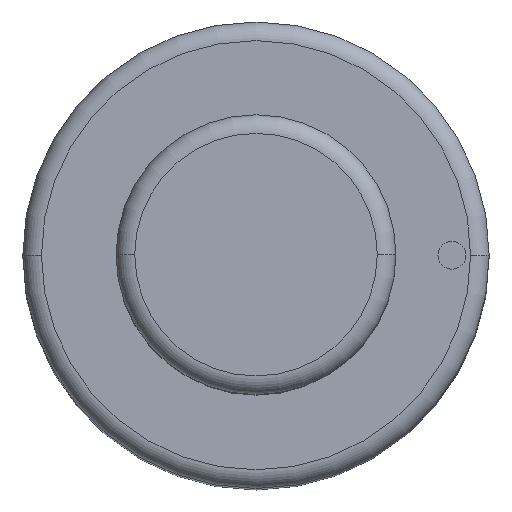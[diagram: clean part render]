
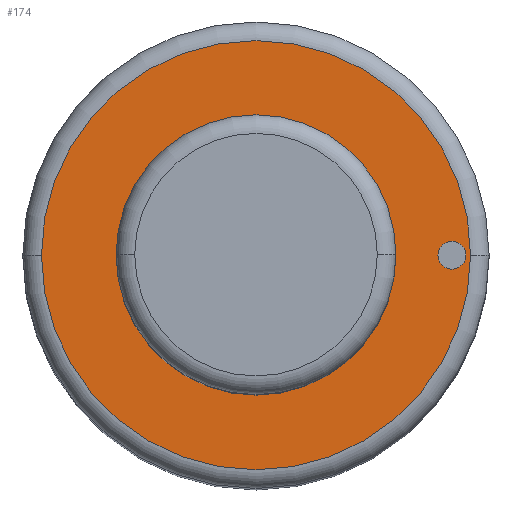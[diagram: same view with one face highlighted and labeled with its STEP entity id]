
A CAD part, top view. The second image highlights one B-rep face of the part: STEP entity #174.
In plain terms, the highlighted planar face has unit normal (0, 0, 1).
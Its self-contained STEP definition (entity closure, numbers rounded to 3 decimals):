
#99=FACE_BOUND('',#225,.T.);
#100=FACE_BOUND('',#226,.T.);
#101=FACE_BOUND('',#227,.T.);
#174=ADVANCED_FACE('',(#99,#100,#101),#180,.T.);
#180=PLANE('',#475);
#225=EDGE_LOOP('',(#307,#308));
#226=EDGE_LOOP('',(#309,#310));
#227=EDGE_LOOP('',(#311,#312));
#307=ORIENTED_EDGE('',*,*,#367,.F.);
#308=ORIENTED_EDGE('',*,*,#368,.F.);
#309=ORIENTED_EDGE('',*,*,#390,.F.);
#310=ORIENTED_EDGE('',*,*,#391,.F.);
#311=ORIENTED_EDGE('',*,*,#363,.T.);
#312=ORIENTED_EDGE('',*,*,#361,.T.);
#329=VERTEX_POINT('',#630);
#330=VERTEX_POINT('',#632);
#331=VERTEX_POINT('',#638);
#334=VERTEX_POINT('',#643);
#346=VERTEX_POINT('',#692);
#347=VERTEX_POINT('',#693);
#361=EDGE_CURVE('',#330,#329,#404,.T.);
#363=EDGE_CURVE('',#329,#330,#405,.T.);
#367=EDGE_CURVE('',#334,#331,#409,.T.);
#368=EDGE_CURVE('',#331,#334,#410,.T.);
#390=EDGE_CURVE('',#346,#347,#422,.T.);
#391=EDGE_CURVE('',#347,#346,#423,.T.);
#404=CIRCLE('',#440,7.5);
#405=CIRCLE('',#442,7.5);
#409=CIRCLE('',#447,11.5);
#410=CIRCLE('',#449,11.5);
#422=CIRCLE('',#473,0.75);
#423=CIRCLE('',#474,0.75);
#440=AXIS2_PLACEMENT_3D('',#631,#512,#513);
#442=AXIS2_PLACEMENT_3D('',#635,#517,#518);
#447=AXIS2_PLACEMENT_3D('',#644,#527,#528);
#449=AXIS2_PLACEMENT_3D('',#646,#531,#532);
#473=AXIS2_PLACEMENT_3D('',#691,#589,#590);
#474=AXIS2_PLACEMENT_3D('',#694,#591,#592);
#475=AXIS2_PLACEMENT_3D('',#695,#593,#594);
#512=DIRECTION('',(0.,0.,-1.));
#513=DIRECTION('',(0.,1.,0.));
#517=DIRECTION('',(0.,0.,-1.));
#518=DIRECTION('',(0.,-1.,0.));
#527=DIRECTION('',(0.,0.,-1.));
#528=DIRECTION('',(0.,1.,0.));
#531=DIRECTION('',(0.,0.,-1.));
#532=DIRECTION('',(0.,-1.,0.));
#589=DIRECTION('',(0.,0.,1.));
#590=DIRECTION('',(0.,1.,0.));
#591=DIRECTION('',(0.,0.,1.));
#592=DIRECTION('',(0.,-1.,0.));
#593=DIRECTION('',(0.,0.,1.));
#594=DIRECTION('',(0.,-1.,0.));
#630=CARTESIAN_POINT('',(-7.5,0.,49.));
#631=CARTESIAN_POINT('',(0.,0.,49.));
#632=CARTESIAN_POINT('',(7.5,0.,49.));
#635=CARTESIAN_POINT('',(0.,0.,49.));
#638=CARTESIAN_POINT('',(-11.5,0.,49.));
#643=CARTESIAN_POINT('',(11.5,0.,49.));
#644=CARTESIAN_POINT('',(0.,0.,49.));
#646=CARTESIAN_POINT('',(0.,0.,49.));
#691=CARTESIAN_POINT('',(10.5,0.,49.));
#692=CARTESIAN_POINT('',(9.75,0.,49.));
#693=CARTESIAN_POINT('',(11.25,0.,49.));
#694=CARTESIAN_POINT('',(10.5,0.,49.));
#695=CARTESIAN_POINT('',(0.,0.,49.));
